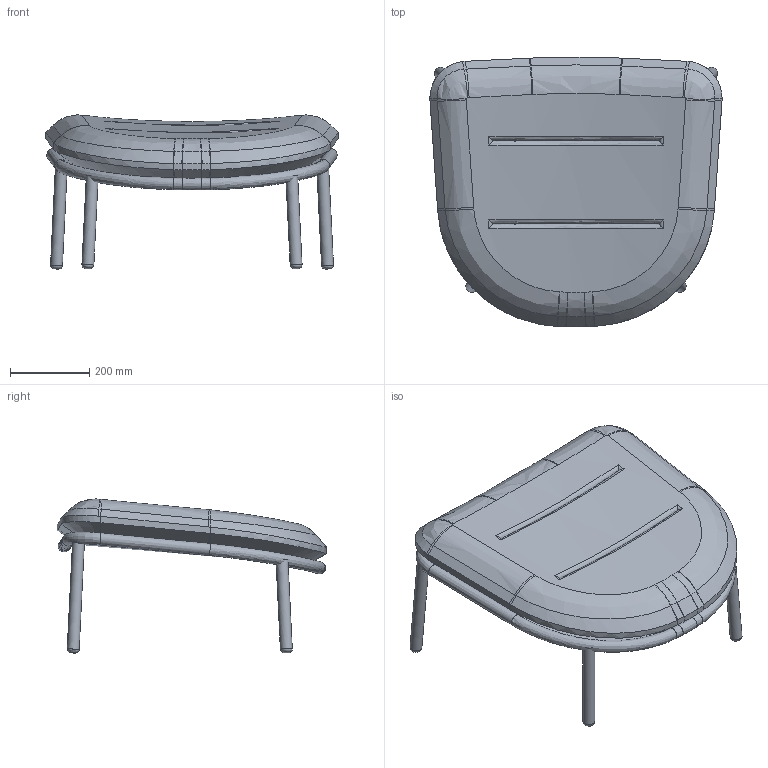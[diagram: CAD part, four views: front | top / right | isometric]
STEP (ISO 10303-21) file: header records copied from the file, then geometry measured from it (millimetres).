
FILE_DESCRIPTION(/* description */ (''),/* implementation_level */ '2;1');
FILE_NAME(/* name */ 'U:/01 COLLECTIE/02 OUTDOOR/01 Producten/Kodo collection/Footrest/3D/VincentSheppard_Kodo_FR.step',/* time_stamp */ '2019-09-24T08:23:31+02:00',/* author */ (''),/* organization */ (''),/* preprocessor_version */ 'ST-DEVELOPER v18',/* originating_system */ 'Autodesk Translation Framework v8.6.0.1094',/* authorisation */ '');
FILE_SCHEMA (('AUTOMOTIVE_DESIGN { 1 0 10303 214 3 1 1 }'));
Length unit declared in the file: millimetre
Products named in the file (1): VincentSheppard_Kodo_FR
Bounding box: 736.92 x 680.64 x 388.6 mm (x, y, z)
Volume: 40954488.6 mm3; surface area: 2108354.8 mm2
Topology: 7 solids, 7 shells, 152 faces, 362 edges, 224 vertices
Faces by surface type: bspline 118, plane 18, cylinder 16
Full cylindrical faces by diameter (mm): 27 x2, 30 x4
Entity records: 12657 total; most frequent: CARTESIAN_POINT 9588, ORIENTED_EDGE 724, DIRECTION 444, EDGE_CURVE 362, VERTEX_POINT 224, AXIS2_PLACEMENT_3D 170, EDGE_LOOP 154, FACE_OUTER_BOUND 152
